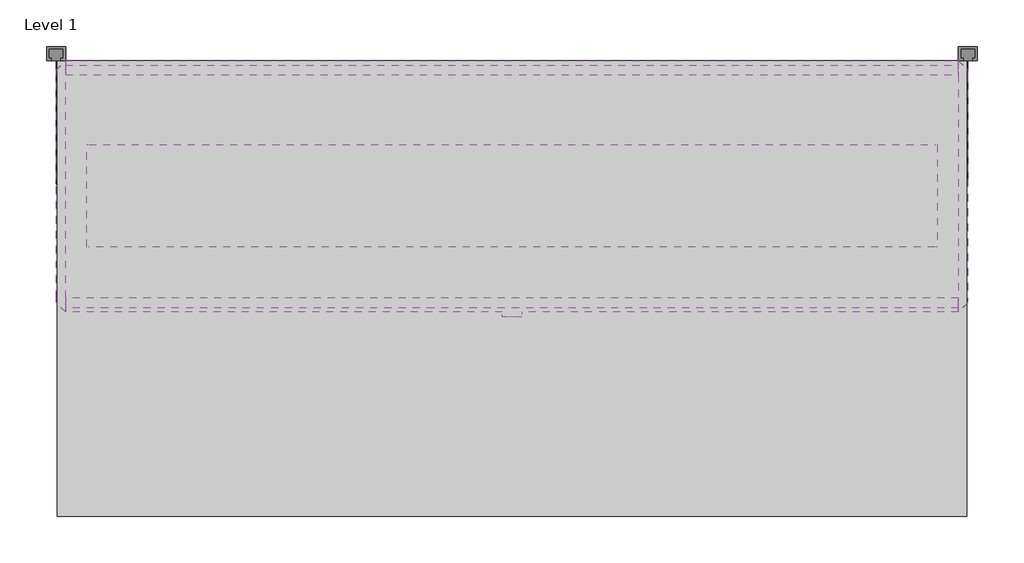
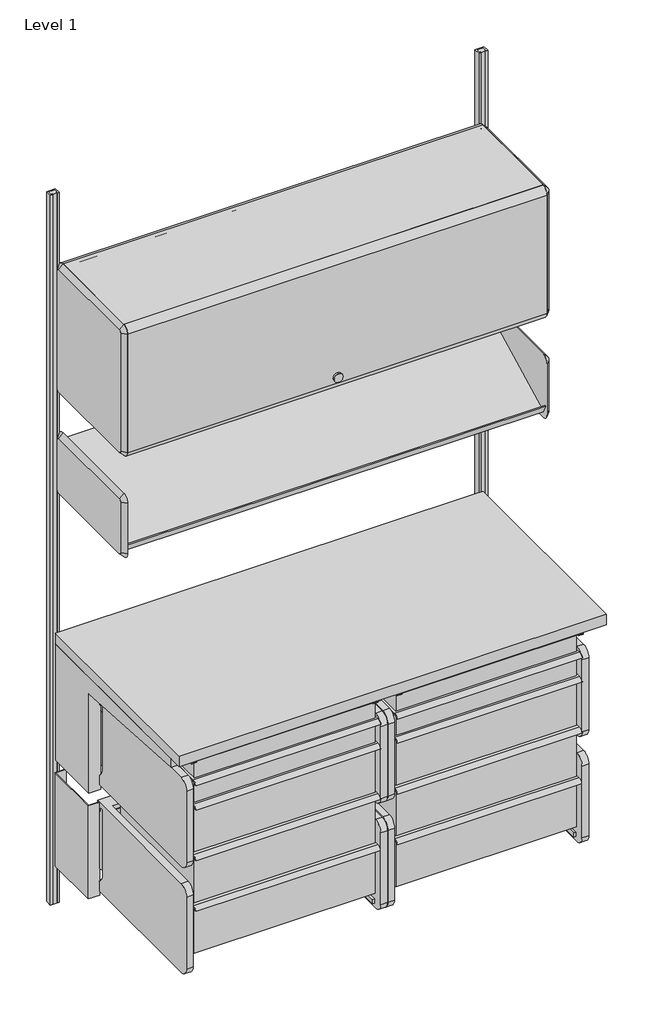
# One storey: 22 furniture elements, 1 light fixture.
"""IFC4 building model written with IfcOpenShell, lengths in millimetres."""

from ifc_helpers import new_model, si_unit, origin, place, context, project, spatial, transform, mapped, element, save
from components import furniture_30ac351e, furniture_de886b3f, furniture_439dfb7c, furniture_56be9a9d, furniture_c9df3ccb, furniture_0ce6bd9a, furniture_ebb16344, furniture_8d228605, furniture_ea425779, a_3_959e08d9, a_3_3943aac6, b_6_f3207868, b_6_2be62e06, b_6_bdab6ed6, light_fixture_48w_for_action_office_09e55f13

model = new_model("IFC4")

# Units and contexts
model_context = context("Model", 3, world=origin())
ifc_project = project(units=[si_unit("LENGTHUNIT", "METRE", prefix="MILLI")], contexts=[model_context])

# Site, building, storey
site = spatial("IfcSite", under=ifc_project)
building = spatial("IfcBuilding", under=site)
storey = spatial("IfcBuildingStorey", under=building, Name="Level 1", Elevation=0.0)

# Furniture
placement = place(None, origin())
furniture_shape = furniture_30ac351e(model_context)
element("IfcFurniture", 1, ObjectType="HermanMiller_CoStruc_CO205_CFrame : 10\"H x 17\"D x 22\"W", at=placement, inside=storey, context=model_context, shape_type="MappedRepresentation", body=[
    mapped(furniture_shape, transform((222.5622951, -255.7213997, 0.0), x_axis=(1.0, 0.0, 0.0), y_axis=(0.0, 1.0, 0.0), z_axis=(0.0, 0.0, 1.0))),
])
element("IfcFurniture", 2, ObjectType="HermanMiller_CoStruc_CO205_CFrame : 10\"H x 17\"D x 22\"W", at=placement, inside=storey, context=model_context, shape_type="MappedRepresentation", body=[
    mapped(furniture_shape, transform((795.6624951, -255.7213997, 0.0), x_axis=(1.0, 0.0, 0.0), y_axis=(0.0, 1.0, 0.0), z_axis=(0.0, 0.0, 1.0))),
])
furniture_2_shape = furniture_de886b3f(model_context)
element("IfcFurniture", 3, ObjectType="HermanMiller_CoStruc_C2141_Heavy-DutyWorkSurface : 24\"D x 48\"W Lam", at=placement, inside=storey, context=model_context, shape_type="MappedRepresentation", body=[
    mapped(furniture_2_shape, transform((304.8, -196.85, 0.0), x_axis=(1.0, 0.0, 0.0), y_axis=(0.0, 1.0, 0.0), z_axis=(0.0, 0.0, 1.0))),
])
furniture_3_shape = furniture_439dfb7c(model_context)
element("IfcFurniture", 4, ObjectType="HermanMiller_ActionOffice_A3220_B-StyleStorageDisplay : Display 13\"D x 48\"W", at=placement, inside=storey, context=model_context, shape_type="MappedRepresentation", body=[
    mapped(furniture_3_shape, transform((733.5420045, -200.025, 0.0), x_axis=(1.0, 0.0, 0.0), y_axis=(0.0, 1.0, 0.0), z_axis=(0.0, 0.0, 1.0))),
])
furniture_4_shape = furniture_56be9a9d(model_context)
element("IfcFurniture", 5, ObjectType="HermanMiller_CoStruc_CO205_CFrame : 10\"H x 17\"D x 22\"W", at=placement, inside=storey, context=model_context, shape_type="MappedRepresentation", body=[
    mapped(furniture_4_shape, transform((222.5622951, -255.7213997, 0.0), x_axis=(1.0, 0.0, 0.0), y_axis=(0.0, 1.0, 0.0), z_axis=(0.0, 0.0, 1.0))),
])
element("IfcFurniture", 6, ObjectType="HermanMiller_CoStruc_CO205_CFrame : 10\"H x 17\"D x 22\"W", at=placement, inside=storey, context=model_context, shape_type="MappedRepresentation", body=[
    mapped(furniture_4_shape, transform((795.6624951, -255.7213997, 0.0), x_axis=(1.0, 0.0, 0.0), y_axis=(0.0, 1.0, 0.0), z_axis=(0.0, 0.0, 1.0))),
])
furniture_5_shape = furniture_c9df3ccb(model_context)
element("IfcFurniture", 7, ObjectType="HermanMiller_CoStruc_C2192_CFrameSupport : 11\"H x 24\"D x 48\"W", at=placement, inside=storey, context=model_context, shape_type="MappedRepresentation", body=[
    mapped(furniture_5_shape, transform((609.6, 107.15625, 0.0), x_axis=(1.0, 0.0, 0.0), y_axis=(0.0, 1.0, 0.0), z_axis=(0.0, 0.0, 1.0))),
])
furniture_6_shape = furniture_0ce6bd9a(model_context)
element("IfcFurniture", 8, ObjectType="HermanMiller_CoStruc_C2140W_WorkSurfaceSupport_ComponentAdaptor : 14\"H x 24\"D x 48\"W", at=placement, inside=storey, context=model_context, shape_type="MappedRepresentation", body=[
    mapped(furniture_6_shape, transform((609.6, -196.85, 0.0), x_axis=(1.0, 0.0, 0.0), y_axis=(0.0, 1.0, 0.0), z_axis=(0.0, 0.0, 1.0))),
])
furniture_7_shape = furniture_ebb16344(model_context)
element("IfcFurniture", 9, ObjectType="HermanMiller_ActionOffice_B-StyleFlipperDoor : Paint 15-1/2H x 13D x 48W", at=placement, inside=storey, context=model_context, shape_type="MappedRepresentation", body=[
    mapped(furniture_7_shape, transform((609.6, -200.025, 457.2), x_axis=(1.0, 0.0, 0.0), y_axis=(0.0, 1.0, 0.0), z_axis=(0.0, 0.0, 1.0))),
])
furniture_8_shape = furniture_8d228605(model_context)
element("IfcFurniture", 10, ObjectType="HermanMiller_CoStruc_B-StyleShelf : 15-1/2H x 13D x 48W", at=placement, inside=storey, context=model_context, shape_type="MappedRepresentation", body=[
    mapped(furniture_8_shape, transform((733.5420045, -200.025, 457.2), x_axis=(1.0, 0.0, 0.0), y_axis=(0.0, 1.0, 0.0), z_axis=(0.0, 0.0, 1.0))),
])
furniture_9_shape = furniture_ea425779(model_context)
element("IfcFurniture", 11, ObjectType="HermanMiller_ActionOffice_AO213_WallStrip : 84\"H", at=placement, inside=storey, context=model_context, shape_type="MappedRepresentation", body=[
    mapped(furniture_9_shape, transform((1219.2474574, 0.0, 0.0), x_axis=(1.0, 0.0, 0.0), y_axis=(0.0, 1.0, 0.0), z_axis=(0.0, 0.0, 1.0))),
])
element("IfcFurniture", 12, ObjectType="HermanMiller_ActionOffice_AO213_WallStrip : 84\"H", at=placement, inside=storey, context=model_context, shape_type="MappedRepresentation", body=[
    mapped(furniture_9_shape, transform((0.0, 0.0, 0.0), x_axis=(1.0, 0.0, 0.0), y_axis=(0.0, 1.0, 0.0), z_axis=(0.0, 0.0, 1.0))),
])
a_3_shape = a_3_959e08d9(model_context)
element("IfcFurniture", 13, ObjectType="HermanMiller_CoStruc_CO207_Drawer : A - 3", at=placement, inside=storey, context=model_context, shape_type="MappedRepresentation", body=[
    mapped(a_3_shape, transform((322.1824517, -417.5379, 0.0), x_axis=(1.0, 0.0, 0.0), y_axis=(0.0, 1.0, 0.0), z_axis=(0.0, 0.0, 1.0))),
])
element("IfcFurniture", 14, ObjectType="HermanMiller_CoStruc_CO207_Drawer : A - 3", at=placement, inside=storey, context=model_context, shape_type="MappedRepresentation", body=[
    mapped(a_3_shape, transform((895.2826517, -417.5379, 0.0), x_axis=(1.0, 0.0, 0.0), y_axis=(0.0, 1.0, 0.0), z_axis=(0.0, 0.0, 1.0))),
])
a_3_2_shape = a_3_3943aac6(model_context)
element("IfcFurniture", 15, ObjectType="HermanMiller_CoStruc_CO207_Drawer : A - 3", at=placement, inside=storey, context=model_context, shape_type="MappedRepresentation", body=[
    mapped(a_3_2_shape, transform((322.1824517, -417.5379, 0.0), x_axis=(1.0, 0.0, 0.0), y_axis=(0.0, 1.0, 0.0), z_axis=(0.0, 0.0, 1.0))),
])
element("IfcFurniture", 16, ObjectType="HermanMiller_CoStruc_CO207_Drawer : A - 3", at=placement, inside=storey, context=model_context, shape_type="MappedRepresentation", body=[
    mapped(a_3_2_shape, transform((895.2826517, -417.5379, 0.0), x_axis=(1.0, 0.0, 0.0), y_axis=(0.0, 1.0, 0.0), z_axis=(0.0, 0.0, 1.0))),
])
b_6_shape = b_6_f3207868(model_context)
element("IfcFurniture", 17, ObjectType="HermanMiller_CoStruc_CO207_Drawer : B - 6", at=placement, inside=storey, context=model_context, shape_type="MappedRepresentation", body=[
    mapped(b_6_shape, transform((322.1824517, -417.5379, 0.0), x_axis=(1.0, 0.0, 0.0), y_axis=(0.0, 1.0, 0.0), z_axis=(0.0, 0.0, 1.0))),
])
element("IfcFurniture", 18, ObjectType="HermanMiller_CoStruc_CO207_Drawer : B - 6", at=placement, inside=storey, context=model_context, shape_type="MappedRepresentation", body=[
    mapped(b_6_shape, transform((895.2826517, -417.5379, 0.0), x_axis=(1.0, 0.0, 0.0), y_axis=(0.0, 1.0, 0.0), z_axis=(0.0, 0.0, 1.0))),
])
b_6_2_shape = b_6_2be62e06(model_context)
element("IfcFurniture", 19, ObjectType="HermanMiller_CoStruc_CO207_Drawer : B - 6", at=placement, inside=storey, context=model_context, shape_type="MappedRepresentation", body=[
    mapped(b_6_2_shape, transform((322.1824517, -417.5379, 0.0), x_axis=(1.0, 0.0, 0.0), y_axis=(0.0, 1.0, 0.0), z_axis=(0.0, 0.0, 1.0))),
])
element("IfcFurniture", 20, ObjectType="HermanMiller_CoStruc_CO207_Drawer : B - 6", at=placement, inside=storey, context=model_context, shape_type="MappedRepresentation", body=[
    mapped(b_6_2_shape, transform((895.2826517, -417.5379, 0.0), x_axis=(1.0, 0.0, 0.0), y_axis=(0.0, 1.0, 0.0), z_axis=(0.0, 0.0, 1.0))),
])
b_6_3_shape = b_6_bdab6ed6(model_context)
element("IfcFurniture", 21, ObjectType="HermanMiller_CoStruc_CO207_Drawer : B - 6", at=placement, inside=storey, context=model_context, shape_type="MappedRepresentation", body=[
    mapped(b_6_3_shape, transform((322.1824517, -417.5379, 0.0), x_axis=(1.0, 0.0, 0.0), y_axis=(0.0, 1.0, 0.0), z_axis=(0.0, 0.0, 1.0))),
])
element("IfcFurniture", 22, ObjectType="HermanMiller_CoStruc_CO207_Drawer : B - 6", at=placement, inside=storey, context=model_context, shape_type="MappedRepresentation", body=[
    mapped(b_6_3_shape, transform((895.2826517, -417.5379, 0.0), x_axis=(1.0, 0.0, 0.0), y_axis=(0.0, 1.0, 0.0), z_axis=(0.0, 0.0, 1.0))),
])

# Light fixture
light_fixture_48w_for_action_office_shape = light_fixture_48w_for_action_office_09e55f13(model_context)
element("IfcLightFixture", 23, ObjectType="HermanMiller_SupplementalProducts_G6170_EUnderShelfLEDTaskLight : 48W for Action Office", at=placement, inside=storey, context=model_context, shape_type="MappedRepresentation", body=[
    mapped(light_fixture_48w_for_action_office_shape, transform((609.6, -199.97928, 124.8679666), x_axis=(1.0, 0.0, 0.0), y_axis=(0.0, 1.0, 0.0), z_axis=(0.0, 0.0, 1.0))),
])

save(model, "model.ifc")
